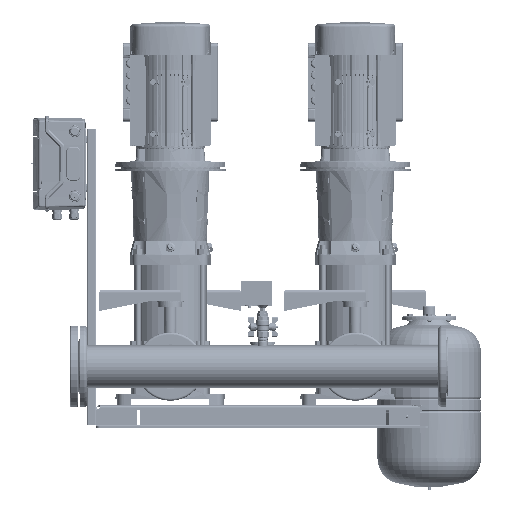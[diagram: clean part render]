
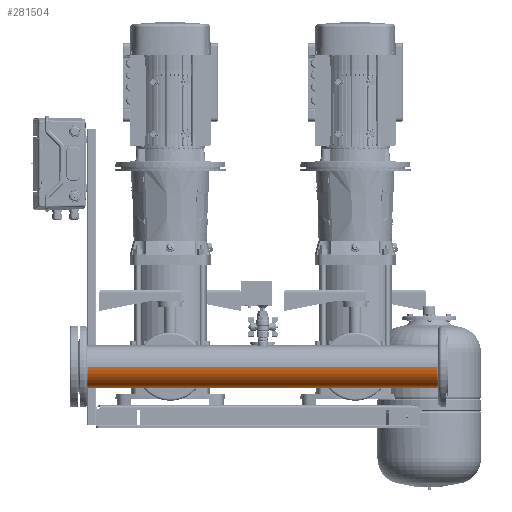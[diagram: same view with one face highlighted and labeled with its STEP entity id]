
A CAD part, front view. The second image highlights one B-rep face of the part: STEP entity #281504.
In plain terms, the highlighted cylindrical face has radius 57.15 mm (diameter 114.3 mm), a partial arc.
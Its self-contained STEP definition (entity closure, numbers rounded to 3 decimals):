
#281054=CARTESIAN_POINT('Vertex',(57.15,13.45,0.)) ;
#281061=CARTESIAN_POINT('Vertex',(57.15,-13.45,0.)) ;
#281065=CARTESIAN_POINT('Control Point',(57.15,13.45,0.)) ;
#281066=CARTESIAN_POINT('Control Point',(57.15,13.45,-2.446)) ;
#281067=CARTESIAN_POINT('Control Point',(57.019,12.894,-4.892)) ;
#281068=CARTESIAN_POINT('Control Point',(56.756,11.782,-7.156)) ;
#281069=CARTESIAN_POINT('Control Point',(56.174,8.85,-10.757)) ;
#281070=CARTESIAN_POINT('Control Point',(55.693,4.727,-12.861)) ;
#281071=CARTESIAN_POINT('Control Point',(55.543,2.632,-13.45)) ;
#281072=CARTESIAN_POINT('Control Point',(55.468,-1.848,-13.777)) ;
#281073=CARTESIAN_POINT('Control Point',(55.815,-6.098,-12.318)) ;
#281074=CARTESIAN_POINT('Control Point',(56.091,-8.093,-11.104)) ;
#281075=CARTESIAN_POINT('Control Point',(56.593,-10.975,-8.378)) ;
#281076=CARTESIAN_POINT('Control Point',(56.975,-12.708,-4.84)) ;
#281077=CARTESIAN_POINT('Control Point',(57.092,-13.203,-3.262)) ;
#281078=CARTESIAN_POINT('Control Point',(57.15,-13.45,-1.631)) ;
#281079=CARTESIAN_POINT('Control Point',(57.15,-13.45,0.)) ;
#281293=CARTESIAN_POINT('Axis2P3D Location',(0.,0.,0.)) ;
#281298=CARTESIAN_POINT('Line Origine',(57.15,0.,0.)) ;
#281302=CARTESIAN_POINT('Vertex',(57.15,211.95,0.)) ;
#281333=CARTESIAN_POINT('Vertex',(57.15,288.05,0.)) ;
#281336=CARTESIAN_POINT('Line Origine',(57.15,0.,0.)) ;
#281340=CARTESIAN_POINT('Vertex',(57.15,472.,0.)) ;
#281347=CARTESIAN_POINT('Vertex',(-57.15,472.,0.)) ;
#281350=CARTESIAN_POINT('Line Origine',(-57.15,0.,0.)) ;
#281354=CARTESIAN_POINT('Vertex',(-57.15,-472.,0.)) ;
#281361=CARTESIAN_POINT('Vertex',(57.15,-472.,0.)) ;
#281364=CARTESIAN_POINT('Line Origine',(57.15,0.,0.)) ;
#281368=CARTESIAN_POINT('Vertex',(57.15,-288.05,0.)) ;
#281399=CARTESIAN_POINT('Vertex',(57.15,-211.95,0.)) ;
#281402=CARTESIAN_POINT('Line Origine',(57.15,0.,0.)) ;
#281425=CARTESIAN_POINT('Control Point',(57.15,-211.95,0.)) ;
#281426=CARTESIAN_POINT('Control Point',(57.15,-211.95,-2.313)) ;
#281427=CARTESIAN_POINT('Control Point',(57.033,-212.126,-4.626)) ;
#281428=CARTESIAN_POINT('Control Point',(56.799,-212.477,-6.912)) ;
#281429=CARTESIAN_POINT('Control Point',(55.885,-213.863,-12.88)) ;
#281430=CARTESIAN_POINT('Control Point',(54.291,-216.361,-18.363)) ;
#281431=CARTESIAN_POINT('Control Point',(53.091,-218.304,-21.521)) ;
#281432=CARTESIAN_POINT('Control Point',(50.524,-222.695,-27.076)) ;
#281433=CARTESIAN_POINT('Control Point',(47.809,-228.185,-31.45)) ;
#281434=CARTESIAN_POINT('Control Point',(46.527,-231.074,-33.277)) ;
#281435=CARTESIAN_POINT('Control Point',(44.374,-236.859,-36.08)) ;
#281436=CARTESIAN_POINT('Control Point',(43.013,-243.298,-37.643)) ;
#281437=CARTESIAN_POINT('Control Point',(42.622,-246.381,-38.07)) ;
#281438=CARTESIAN_POINT('Control Point',(42.44,-252.817,-38.28)) ;
#281439=CARTESIAN_POINT('Control Point',(43.427,-259.091,-37.164)) ;
#281440=CARTESIAN_POINT('Control Point',(44.213,-262.186,-36.254)) ;
#281441=CARTESIAN_POINT('Control Point',(45.814,-267.082,-34.254)) ;
#281442=CARTESIAN_POINT('Control Point',(47.705,-271.473,-31.514)) ;
#281443=CARTESIAN_POINT('Control Point',(48.492,-273.154,-30.3)) ;
#281444=CARTESIAN_POINT('Control Point',(50.792,-277.767,-26.468)) ;
#281445=CARTESIAN_POINT('Control Point',(53.018,-281.588,-21.762)) ;
#281446=CARTESIAN_POINT('Control Point',(54.336,-283.716,-18.329)) ;
#281447=CARTESIAN_POINT('Control Point',(55.96,-286.252,-12.64)) ;
#281448=CARTESIAN_POINT('Control Point',(56.843,-287.589,-6.463)) ;
#281449=CARTESIAN_POINT('Control Point',(57.048,-287.896,-4.323)) ;
#281450=CARTESIAN_POINT('Control Point',(57.15,-288.05,-2.162)) ;
#281451=CARTESIAN_POINT('Control Point',(57.15,-288.05,0.)) ;
#281453=CARTESIAN_POINT('Axis2P3D Location',(0.,-472.,0.)) ;
#281458=CARTESIAN_POINT('Axis2P3D Location',(0.,472.,0.)) ;
#281464=CARTESIAN_POINT('Control Point',(57.15,288.05,0.)) ;
#281465=CARTESIAN_POINT('Control Point',(57.15,288.05,-2.313)) ;
#281466=CARTESIAN_POINT('Control Point',(57.033,287.874,-4.626)) ;
#281467=CARTESIAN_POINT('Control Point',(56.799,287.523,-6.912)) ;
#281468=CARTESIAN_POINT('Control Point',(55.885,286.137,-12.88)) ;
#281469=CARTESIAN_POINT('Control Point',(54.291,283.639,-18.363)) ;
#281470=CARTESIAN_POINT('Control Point',(53.091,281.696,-21.521)) ;
#281471=CARTESIAN_POINT('Control Point',(50.524,277.305,-27.076)) ;
#281472=CARTESIAN_POINT('Control Point',(47.809,271.815,-31.45)) ;
#281473=CARTESIAN_POINT('Control Point',(46.527,268.926,-33.277)) ;
#281474=CARTESIAN_POINT('Control Point',(44.374,263.141,-36.08)) ;
#281475=CARTESIAN_POINT('Control Point',(43.013,256.702,-37.643)) ;
#281476=CARTESIAN_POINT('Control Point',(42.622,253.619,-38.07)) ;
#281477=CARTESIAN_POINT('Control Point',(42.44,247.183,-38.28)) ;
#281478=CARTESIAN_POINT('Control Point',(43.427,240.909,-37.164)) ;
#281479=CARTESIAN_POINT('Control Point',(44.213,237.814,-36.254)) ;
#281480=CARTESIAN_POINT('Control Point',(45.814,232.918,-34.254)) ;
#281481=CARTESIAN_POINT('Control Point',(47.705,228.527,-31.514)) ;
#281482=CARTESIAN_POINT('Control Point',(48.492,226.846,-30.3)) ;
#281483=CARTESIAN_POINT('Control Point',(50.792,222.233,-26.468)) ;
#281484=CARTESIAN_POINT('Control Point',(53.018,218.412,-21.762)) ;
#281485=CARTESIAN_POINT('Control Point',(54.336,216.284,-18.329)) ;
#281486=CARTESIAN_POINT('Control Point',(55.96,213.748,-12.64)) ;
#281487=CARTESIAN_POINT('Control Point',(56.843,212.411,-6.463)) ;
#281488=CARTESIAN_POINT('Control Point',(57.048,212.104,-4.323)) ;
#281489=CARTESIAN_POINT('Control Point',(57.15,211.95,-2.162)) ;
#281490=CARTESIAN_POINT('Control Point',(57.15,211.95,0.)) ;
#281300=VECTOR('Line Direction',#281299,1.) ;
#281338=VECTOR('Line Direction',#281337,1.) ;
#281352=VECTOR('Line Direction',#281351,1.) ;
#281366=VECTOR('Line Direction',#281365,1.) ;
#281404=VECTOR('Line Direction',#281403,1.) ;
#281294=DIRECTION('Axis2P3D Direction',(0.,1.,-0.)) ;
#281295=DIRECTION('Axis2P3D XDirection',(-1.,0.,0.)) ;
#281299=DIRECTION('Vector Direction',(0.,1.,0.)) ;
#281337=DIRECTION('Vector Direction',(0.,1.,0.)) ;
#281351=DIRECTION('Vector Direction',(0.,1.,0.)) ;
#281365=DIRECTION('Vector Direction',(0.,1.,0.)) ;
#281403=DIRECTION('Vector Direction',(0.,1.,0.)) ;
#281454=DIRECTION('Axis2P3D Direction',(0.,1.,-0.)) ;
#281459=DIRECTION('Axis2P3D Direction',(0.,1.,-0.)) ;
#281296=AXIS2_PLACEMENT_3D('Cylinder Axis2P3D',#281293,#281294,#281295) ;
#281455=AXIS2_PLACEMENT_3D('Circle Axis2P3D',#281453,#281454,$) ;
#281460=AXIS2_PLACEMENT_3D('Circle Axis2P3D',#281458,#281459,$) ;
#281301=LINE('Line',#281298,#281300) ;
#281339=LINE('Line',#281336,#281338) ;
#281353=LINE('Line',#281350,#281352) ;
#281367=LINE('Line',#281364,#281366) ;
#281405=LINE('Line',#281402,#281404) ;
#281456=CIRCLE('generated circle',#281455,57.15) ;
#281461=CIRCLE('generated circle',#281460,57.15) ;
#281297=CYLINDRICAL_SURFACE('generated cylinder',#281296,57.15) ;
#281080=EDGE_CURVE('',#281055,#281062,#281064,.T.) ;
#281304=EDGE_CURVE('',#281055,#281303,#281301,.T.) ;
#281342=EDGE_CURVE('',#281334,#281341,#281339,.T.) ;
#281356=EDGE_CURVE('',#281355,#281348,#281353,.T.) ;
#281370=EDGE_CURVE('',#281362,#281369,#281367,.T.) ;
#281406=EDGE_CURVE('',#281400,#281062,#281405,.T.) ;
#281452=EDGE_CURVE('',#281400,#281369,#281424,.T.) ;
#281457=EDGE_CURVE('',#281362,#281355,#281456,.T.) ;
#281462=EDGE_CURVE('',#281341,#281348,#281461,.T.) ;
#281491=EDGE_CURVE('',#281334,#281303,#281463,.T.) ;
#281493=ORIENTED_EDGE('',*,*,#281406,.F.) ;
#281494=ORIENTED_EDGE('',*,*,#281452,.T.) ;
#281495=ORIENTED_EDGE('',*,*,#281370,.F.) ;
#281496=ORIENTED_EDGE('',*,*,#281457,.T.) ;
#281497=ORIENTED_EDGE('',*,*,#281356,.T.) ;
#281498=ORIENTED_EDGE('',*,*,#281462,.F.) ;
#281499=ORIENTED_EDGE('',*,*,#281342,.F.) ;
#281500=ORIENTED_EDGE('',*,*,#281491,.T.) ;
#281501=ORIENTED_EDGE('',*,*,#281304,.F.) ;
#281502=ORIENTED_EDGE('',*,*,#281080,.T.) ;
#281492=EDGE_LOOP('',(#281493,#281494,#281495,#281496,#281497,#281498,#281499,#281500,#281501,#281502)) ;
#281055=VERTEX_POINT('',#281054) ;
#281062=VERTEX_POINT('',#281061) ;
#281303=VERTEX_POINT('',#281302) ;
#281334=VERTEX_POINT('',#281333) ;
#281341=VERTEX_POINT('',#281340) ;
#281348=VERTEX_POINT('',#281347) ;
#281355=VERTEX_POINT('',#281354) ;
#281362=VERTEX_POINT('',#281361) ;
#281369=VERTEX_POINT('',#281368) ;
#281400=VERTEX_POINT('',#281399) ;
#281504=ADVANCED_FACE('PartBody',(#281503),#281297,.T.) ;
#281064=B_SPLINE_CURVE_WITH_KNOTS('',5,(#281065,#281066,#281067,#281068,#281069,#281070,#281071,#281072,#281073,#281074,#281075,#281076,#281077,#281078,#281079),.UNSPECIFIED.,.F.,.U.,(6,3,3,3,6),(0.,17.297,32.296,48.434,59.968),.UNSPECIFIED.) ;
#281424=B_SPLINE_CURVE_WITH_KNOTS('',5,(#281425,#281426,#281427,#281428,#281429,#281430,#281431,#281432,#281433,#281434,#281435,#281436,#281437,#281438,#281439,#281440,#281441,#281442,#281443,#281444,#281445,#281446,#281447,#281448,#281449,#281450,#281451),.UNSPECIFIED.,.F.,.U.,(6,3,3,3,3,3,3,3,6),(0.,16.355,43.643,69.282,91.185,114.422,130.056,159.751,175.037),.UNSPECIFIED.) ;
#281463=B_SPLINE_CURVE_WITH_KNOTS('',5,(#281464,#281465,#281466,#281467,#281468,#281469,#281470,#281471,#281472,#281473,#281474,#281475,#281476,#281477,#281478,#281479,#281480,#281481,#281482,#281483,#281484,#281485,#281486,#281487,#281488,#281489,#281490),.UNSPECIFIED.,.F.,.U.,(6,3,3,3,3,3,3,3,6),(0.,16.355,43.643,69.282,91.185,114.422,130.056,159.751,175.037),.UNSPECIFIED.) ;
#281503=FACE_OUTER_BOUND('',#281492,.T.) ;
